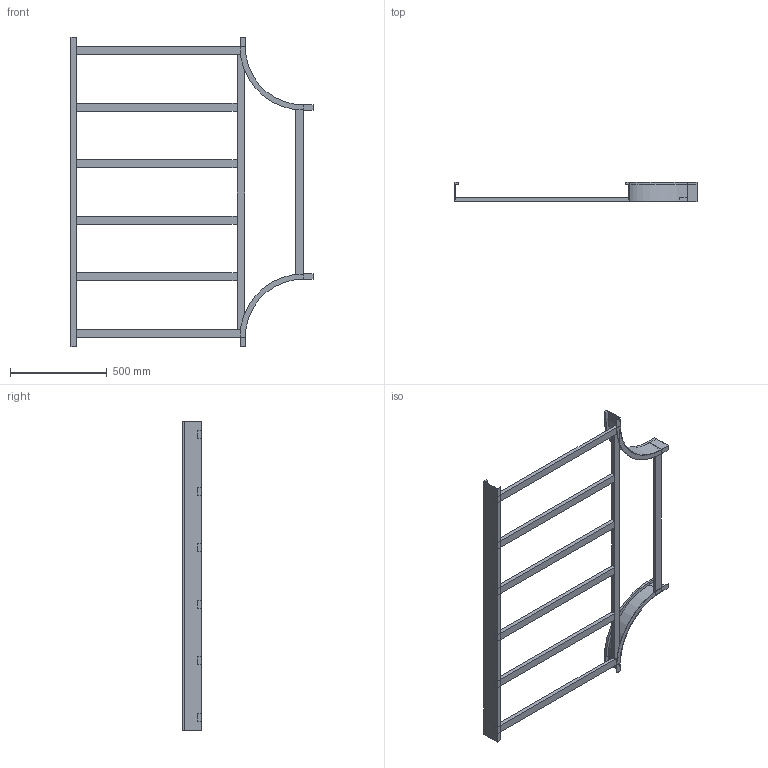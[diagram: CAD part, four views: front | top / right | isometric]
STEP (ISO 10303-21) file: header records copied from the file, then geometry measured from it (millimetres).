
FILE_DESCRIPTION (( 'STEP AP214' ), '1' );
FILE_NAME ('B2_15B3D900.step', '2025-02-21T15:50:30', ( '' ), ( '' ), 'SwSTEP 2.0', 'SolidWorks 2023', '' );
FILE_SCHEMA (( 'AUTOMOTIVE_DESIGN' ));
Length unit declared in the file: millimetre
Products named in the file (6): B2_15B3D900; TRAVERSINO_INTERMEDIO_R300+900; TRAVERSINO_900; B2_LONGH.RETT_H100_R300+900; B2_LONGH.INTERNO 90°_H100_R300; B2_TRAVERSINO_LONG._R300+900
Assembly tree (11 placements, depth 2):
  B2_15B3D900
    B2_LONGH.INTERNO 90°_H100_R300  x2
    B2_LONGH.RETT_H100_R300+900
    TRAVERSINO_900  x3
    B2_TRAVERSINO_LONG._R300+900
    TRAVERSINO_INTERMEDIO_R300+900  x4
Bounding box: 1250 x 100 x 1600 mm (x, y, z)
Volume: 7319603 mm3; surface area: 1715653.8 mm2
Topology: 11 solids, 11 shells, 110 faces, 232 edges, 144 vertices
Faces by surface type: plane 102, cylinder 8
Entity records: 1655 total; most frequent: DIRECTION 260, CARTESIAN_POINT 256, ORIENTED_EDGE 232, EDGE_CURVE 116, VECTOR 108, LINE 108, AXIS2_PLACEMENT_3D 76, VERTEX_POINT 72
